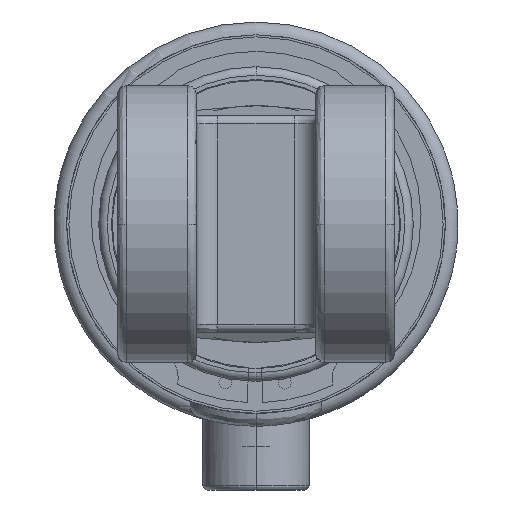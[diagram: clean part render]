
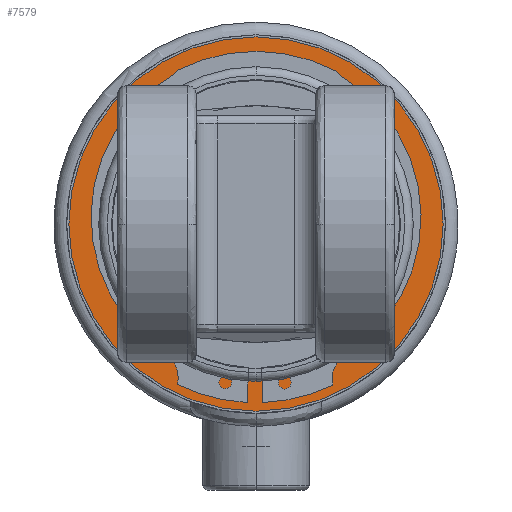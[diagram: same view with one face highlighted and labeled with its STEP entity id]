
A CAD part, left-side view. The second image highlights one B-rep face of the part: STEP entity #7579.
In plain terms, the highlighted planar face has unit normal (-1, 0, 0).
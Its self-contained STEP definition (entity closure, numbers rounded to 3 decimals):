
#205 = VERTEX_POINT ( 'NONE', #9027 ) ;
#334 = DIRECTION ( 'NONE',  ( -1., 0., 0. ) ) ;
#1671 = PLANE ( 'NONE',  #1956 ) ;
#1689 = ORIENTED_EDGE ( 'NONE', *, *, #2547, .F. ) ;
#1789 = DIRECTION ( 'NONE',  ( -1., 0., 0. ) ) ;
#1956 = AXIS2_PLACEMENT_3D ( 'NONE', #2504, #8922, #8088 ) ;
#2504 = CARTESIAN_POINT ( 'NONE',  ( -570.005, 0., -43.95 ) ) ;
#2547 = EDGE_CURVE ( 'NONE', #7453, #205, #5762, .T. ) ;
#2618 = EDGE_CURVE ( 'NONE', #10096, #3094, #7920, .T. ) ;
#2887 = CIRCLE ( 'NONE', #9680, 36.95 ) ;
#3022 = FACE_BOUND ( 'NONE', #8852, .T. ) ;
#3094 = VERTEX_POINT ( 'NONE', #4712 ) ;
#3214 = CARTESIAN_POINT ( 'NONE',  ( -570.005, 0., 36.95 ) ) ;
#3773 = DIRECTION ( 'NONE',  ( -1., 0., 0. ) ) ;
#3907 = ORIENTED_EDGE ( 'NONE', *, *, #5553, .F. ) ;
#3911 = CARTESIAN_POINT ( 'NONE',  ( -570.005, 0., 0. ) ) ;
#4143 = CIRCLE ( 'NONE', #5491, 43.95 ) ;
#4542 = EDGE_LOOP ( 'NONE', ( #5363, #6511 ) ) ;
#4712 = CARTESIAN_POINT ( 'NONE',  ( -570.005, 0., -43.95 ) ) ;
#4837 = DIRECTION ( 'NONE',  ( 0., 0., 1. ) ) ;
#5363 = ORIENTED_EDGE ( 'NONE', *, *, #2618, .T. ) ;
#5491 = AXIS2_PLACEMENT_3D ( 'NONE', #9282, #3773, #10192 ) ;
#5553 = EDGE_CURVE ( 'NONE', #205, #7453, #2887, .T. ) ;
#5762 = CIRCLE ( 'NONE', #8052, 36.95 ) ;
#5813 = CARTESIAN_POINT ( 'NONE',  ( -570.005, 0., 0. ) ) ;
#6511 = ORIENTED_EDGE ( 'NONE', *, *, #10235, .T. ) ;
#6731 = DIRECTION ( 'NONE',  ( 0., 0., 1. ) ) ;
#7271 = CARTESIAN_POINT ( 'NONE',  ( -570.005, 0., 0. ) ) ;
#7453 = VERTEX_POINT ( 'NONE', #3214 ) ;
#7579 = ADVANCED_FACE ( 'NONE', ( #10636, #3022 ), #1671, .T. ) ;
#7920 = CIRCLE ( 'NONE', #10494, 43.95 ) ;
#8052 = AXIS2_PLACEMENT_3D ( 'NONE', #3911, #10328, #4837 ) ;
#8088 = DIRECTION ( 'NONE',  ( 0., 0., 1. ) ) ;
#8198 = DIRECTION ( 'NONE',  ( 0., 0., 1. ) ) ;
#8852 = EDGE_LOOP ( 'NONE', ( #1689, #3907 ) ) ;
#8922 = DIRECTION ( 'NONE',  ( -1., 0., 0. ) ) ;
#9027 = CARTESIAN_POINT ( 'NONE',  ( -570.005, 0., -36.95 ) ) ;
#9282 = CARTESIAN_POINT ( 'NONE',  ( -570.005, 0., 0. ) ) ;
#9680 = AXIS2_PLACEMENT_3D ( 'NONE', #7271, #1789, #8198 ) ;
#10096 = VERTEX_POINT ( 'NONE', #10680 ) ;
#10192 = DIRECTION ( 'NONE',  ( 0., 0., 1. ) ) ;
#10235 = EDGE_CURVE ( 'NONE', #3094, #10096, #4143, .T. ) ;
#10328 = DIRECTION ( 'NONE',  ( -1., 0., 0. ) ) ;
#10494 = AXIS2_PLACEMENT_3D ( 'NONE', #5813, #334, #6731 ) ;
#10636 = FACE_OUTER_BOUND ( 'NONE', #4542, .T. ) ;
#10680 = CARTESIAN_POINT ( 'NONE',  ( -570.005, 0., 43.95 ) ) ;
